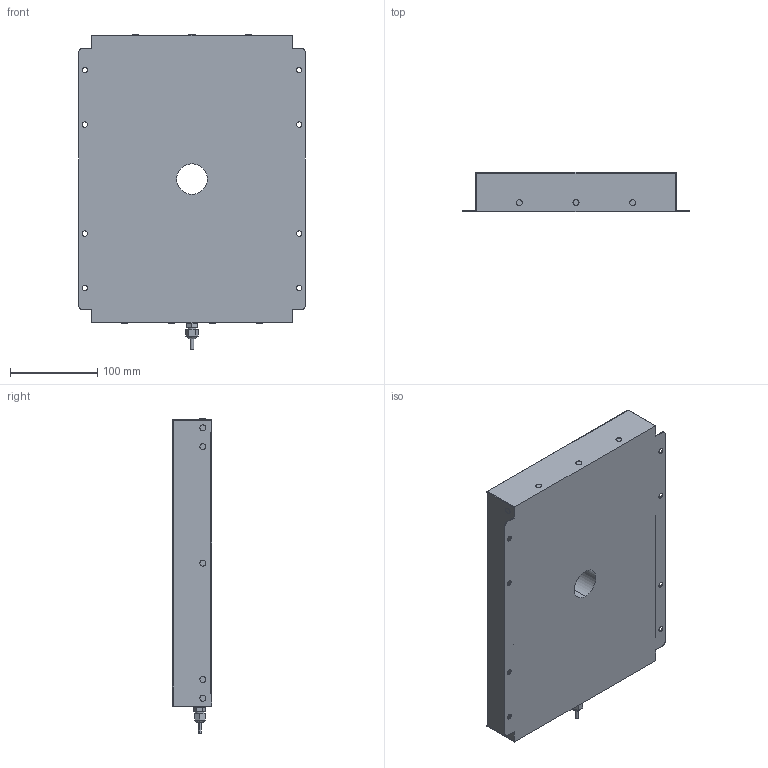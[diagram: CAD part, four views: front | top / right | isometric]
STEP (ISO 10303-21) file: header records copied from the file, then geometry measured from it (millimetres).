
FILE_DESCRIPTION (( 'STEP AP203' ), '1' );
FILE_NAME ('HDSBPA-300x200_-24-35D.STEP', '2023-04-18T06:24:59', ( '' ), ( '' ), 'SwSTEP 2.0', 'SolidWorks 2022', '' );
FILE_SCHEMA (( 'CONFIG_CONTROL_DESIGN' ));
Length unit declared in the file: millimetre
Products named in the file (1): HDSBPA-300x200_-24-35D
Bounding box: 260 x 45 x 360.34 mm (x, y, z)
Volume: 3323991.7 mm3; surface area: 224267.2 mm2
Topology: 1 solids, 1 shells, 141 faces, 328 edges, 208 vertices
Faces by surface type: cylinder 70, plane 65, bspline 6
Entity records: 4201 total; most frequent: CARTESIAN_POINT 770, DIRECTION 750, ORIENTED_EDGE 648, EDGE_CURVE 324, AXIS2_PLACEMENT_3D 292, VERTEX_POINT 208, EDGE_LOOP 182, LINE 166
